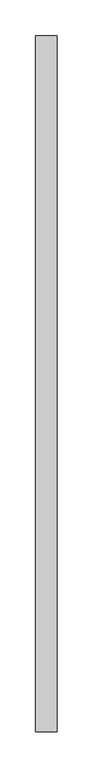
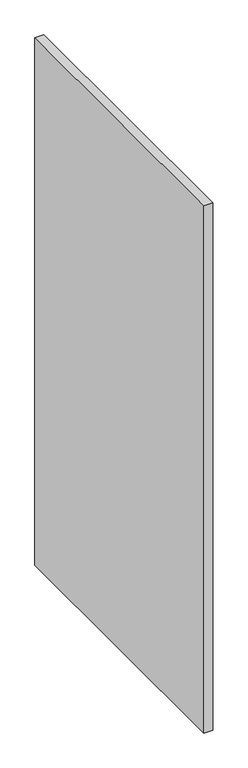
"""IFC4 building model written with IfcOpenShell, lengths in millimetres: furniture geometry, Divisoria_Lateral Fechada : Divisoria_Lateral Fechada_130x180."""

from ifc_helpers import new_model, si_unit, frame, origin, place, context, project, spatial, polyline, outline, extrude, source, transform, mapped, element, save


def furniture_ba5a2c56(model_context):
    return source(origin(), model_context, "Body", "SweptSolid", [
        extrude(outline(polyline([(59.7003264, 50.0), (59.7003264, -920.0), (29.7003264, -920.0), (29.7003264, 50.0), (59.7003264, 50.0)])), frame((0.0, 0.0, 50.0), z_axis=(0.0, 0.0, 1.0), x_axis=(1.0, 0.0, 0.0)), (0.0, 0.0, 1.0), 1850.0),
    ])


if __name__ == "__main__":
    model = new_model("IFC4")
    model_context = context("Model", 3, world=origin())
    ifc_project = project(units=[si_unit("LENGTHUNIT", "METRE", prefix="MILLI")], contexts=[model_context])
    site = spatial("IfcSite", under=ifc_project)
    building = spatial("IfcBuilding", under=site)
    placement = place(None, origin())
    furniture_shape = furniture_ba5a2c56(model_context)
    element("IfcFurniture", 1, ObjectType="Divisoria_Lateral Fechada : Divisoria_Lateral Fechada_130x180", at=placement, inside=building, context=model_context, shape_type="MappedRepresentation", body=[
        mapped(furniture_shape, transform((0.0, 0.0, 0.0), x_axis=(1.0, 0.0, 0.0), y_axis=(0.0, 1.0, 0.0), z_axis=(0.0, 0.0, 1.0))),
    ])
    save(model, "model.ifc")
